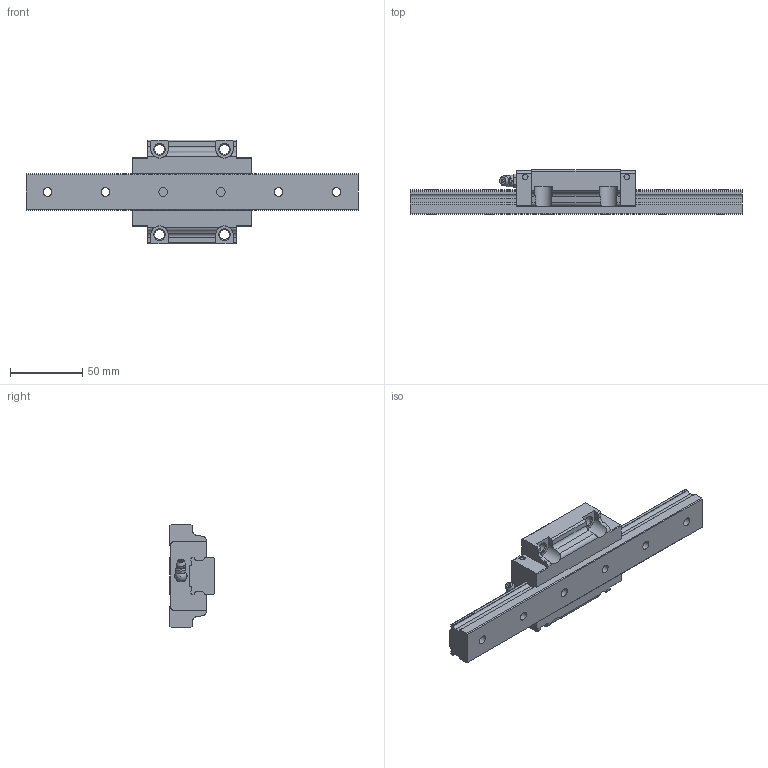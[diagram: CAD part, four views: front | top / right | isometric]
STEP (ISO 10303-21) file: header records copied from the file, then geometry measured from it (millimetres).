
FILE_DESCRIPTION(/* description */ ('STEP AP203'),/* implementation_level */ '2;1');
FILE_NAME(/* name */ 'SVR25C1SS-230L_G15_0_B-M6F_73-6_0_0_0_1',/* time_stamp */ '2024-05-17T07:22:47+02:00',/* author */ ('License CC BY-ND 4.0'),/* organization */ ('CADENAS'),/* preprocessor_version */ 'ST-DEVELOPER v19.3',/* originating_system */ 'PARTsolutions',/* authorisation */ ' ');
FILE_SCHEMA (('CONFIG_CONTROL_DESIGN'));
Length unit declared in the file: millimetre
Products named in the file (4): SVR25C1SS-230L_G15_0_B-M6F_73-6_0_0_0_1; SVR 25C23015 R Track; SVR 25C1SSB-M6F1 Slide; B-M6F_grease_nipple_joint1_SVR
Assembly tree (3 placements, depth 2):
  SVR25C1SS-230L_G15_0_B-M6F_73-6_0_0_0_1
    SVR 25C23015 R Track
    SVR 25C1SSB-M6F1 Slide
    B-M6F_grease_nipple_joint1_SVR
Bounding box: 230 x 31 x 72 mm (x, y, z)
Volume: 187040.9 mm3; surface area: 44620.4 mm2
Topology: 3 solids, 3 shells, 220 faces, 588 edges, 385 vertices
Faces by surface type: plane 122, cylinder 72, cone 21, sphere 3, torus 2
Full cylindrical faces by diameter (mm): 3.9 x4, 4.917 x2, 6 x7, 6.8 x4, 8 x1, 9.5 x6
Entity records: 6789 total; most frequent: CARTESIAN_POINT 1307, DIRECTION 1116, ORIENTED_EDGE 1068, EDGE_CURVE 534, AXIS2_PLACEMENT_3D 398, VERTEX_POINT 377, LINE 320, VECTOR 320
